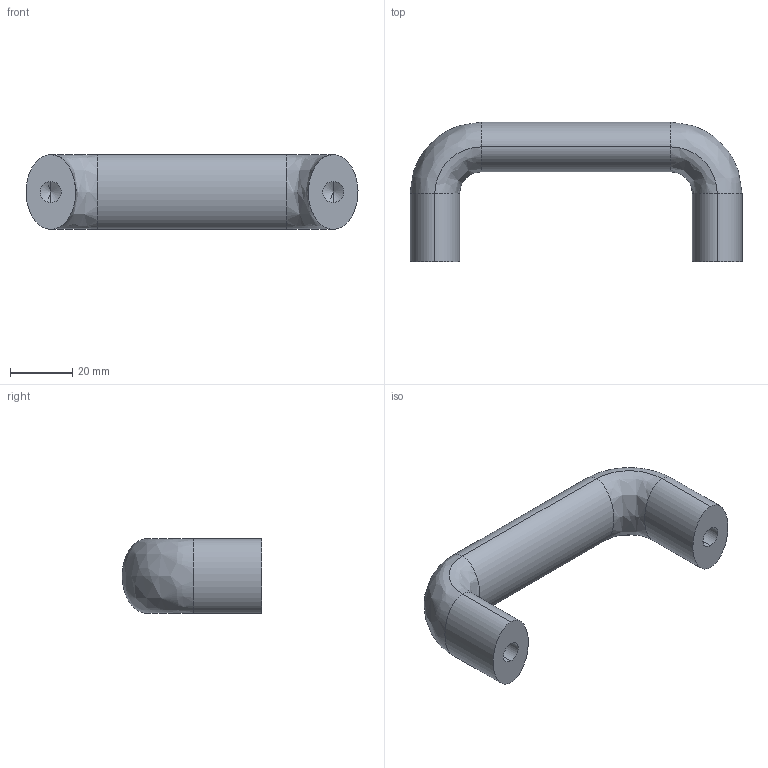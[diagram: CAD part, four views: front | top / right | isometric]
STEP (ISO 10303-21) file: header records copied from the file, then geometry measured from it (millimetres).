
FILE_DESCRIPTION (( 'STEP AP203' ), '1' );
FILE_NAME ('SK4-8017-1.STEP', '2018-11-02T05:33:33', ( 'admin' ), ( 'Microsoft' ), 'SwSTEP 2.0', 'SolidWorks 2015', '' );
FILE_SCHEMA (( 'CONFIG_CONTROL_DESIGN' ));
Length unit declared in the file: millimetre
Products named in the file (1): SK4-8017-1
Bounding box: 106.99 x 44.99 x 24 mm (x, y, z)
Volume: 44214.5 mm3; surface area: 11220 mm2
Topology: 1 solids, 1 shells, 20 faces, 42 edges, 22 vertices
Faces by surface type: bspline 10, cylinder 4, cone 4, plane 2
Entity records: 633 total; most frequent: CARTESIAN_POINT 219, ORIENTED_EDGE 76, DIRECTION 60, EDGE_CURVE 38, AXIS2_PLACEMENT_3D 23, EDGE_LOOP 22, VERTEX_POINT 22, FACE_OUTER_BOUND 20
